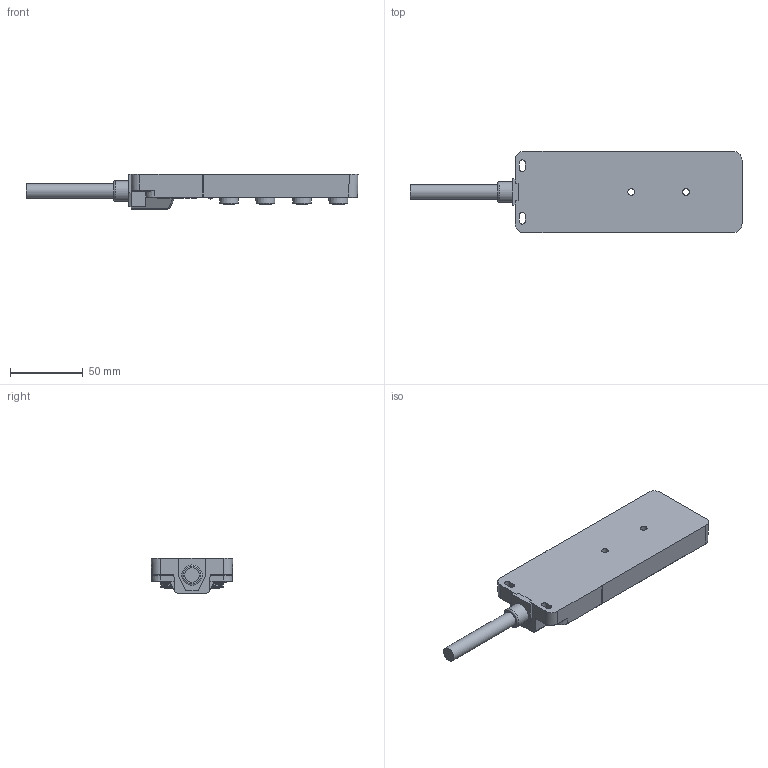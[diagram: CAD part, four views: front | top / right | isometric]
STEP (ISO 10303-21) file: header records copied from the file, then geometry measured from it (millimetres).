
FILE_DESCRIPTION(/* description */ (''),/* implementation_level */ '2;1');
FILE_NAME(/* name */ 'D8M12-5T-L.stp',/* time_stamp */ '2018-04-18T10:27:24+08:00',/* author */ (''),/* organization */ (''),/* preprocessor_version */ 'ST-DEVELOPER v16',/* originating_system */ 'SIEMENS PLM Software NX 10.0',/* authorisation */ '');
FILE_SCHEMA (('AP203_CONFIGURATION_CONTROLLED_3D_DESIGN_OF_MECHANICAL_PARTS_AND_ASSEMBLIES_MIM_LF { 1 0 10303 403 2 1 2}'));
Products named in the file (1): 9147259C92A3cyp0
Bounding box: 227.41 x 55.81 x 24 mm (x, y, z)
Volume: 146442.7 mm3; surface area: 71534.9 mm2
Topology: 11 solids, 74 shells, 1977 faces, 5374 edges, 3594 vertices
Faces by surface type: plane 1129, cylinder 549, cone 218, torus 25, extrusion 23, sphere 17, bspline 16
Full cylindrical faces by diameter (mm): 1 x40, 1.1 x40, 1.2 x40, 2 x80, 2.1 x80, 4.5 x2, 4.8 x1, 6.9 x2, 10 x2, 13 x8, 14 x1
Entity records: 68798 total; most frequent: CARTESIAN_POINT 21341, DIRECTION 9742, ORIENTED_EDGE 9142, EDGE_CURVE 4571, AXIS2_PLACEMENT_3D 3522, VERTEX_POINT 3277, EDGE_LOOP 2808, VECTOR 2698
